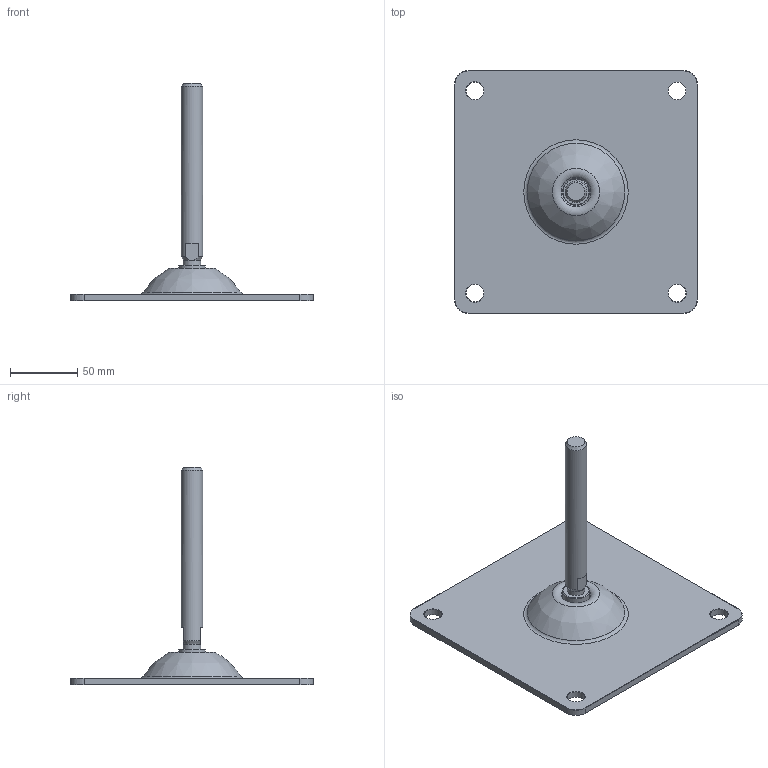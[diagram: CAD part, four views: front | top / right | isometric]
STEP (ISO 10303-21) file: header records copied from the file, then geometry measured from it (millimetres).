
FILE_DESCRIPTION(/* description */ (''),/* implementation_level */ '2;1');
FILE_NAME(/* name */ 'C:\Users\Stefan.Nesic\Desktop\01010STEP\000Verifica\CORRETTI\P180QM16X161.stp',/* time_stamp */ '2022-07-12T11:16:11+02:00',/* author */ (''),/* organization */ (''),/* preprocessor_version */ 'ST-DEVELOPER v18.1',/* originating_system */ 'Autodesk Inventor 2021',/* authorisation */ '');
FILE_SCHEMA (('AUTOMOTIVE_DESIGN { 1 0 10303 214 3 1 1 }'));
Length unit declared in the file: millimetre
Products named in the file (1): P180QM16X161
Bounding box: 180 x 180 x 161.63 mm (x, y, z)
Volume: 197155.7 mm3; surface area: 81473.3 mm2
Topology: 6 solids, 6 shells, 79 faces, 173 edges, 110 vertices
Faces by surface type: plane 28, cylinder 28, torus 13, cone 5, sphere 3, bspline 2
Full cylindrical faces by diameter (mm): 9.6 x2, 10.3 x3, 10.5 x1, 10.511 x2, 11.6 x1, 13 x5, 16 x1, 20 x1, 21.011 x2
Entity records: 2335 total; most frequent: DIRECTION 435, CARTESIAN_POINT 423, ORIENTED_EDGE 346, AXIS2_PLACEMENT_3D 188, EDGE_CURVE 173, CIRCLE 110, VERTEX_POINT 110, EDGE_LOOP 99
